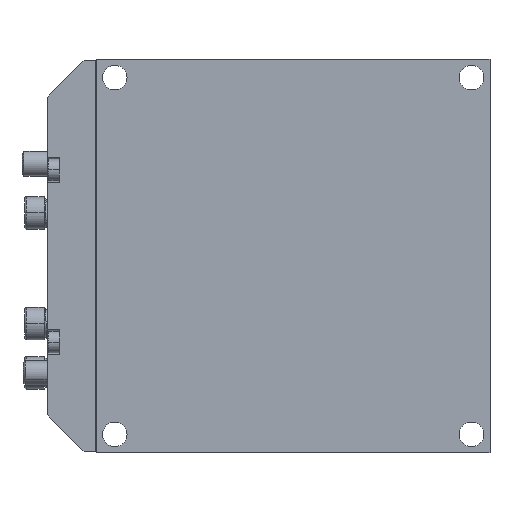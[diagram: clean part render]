
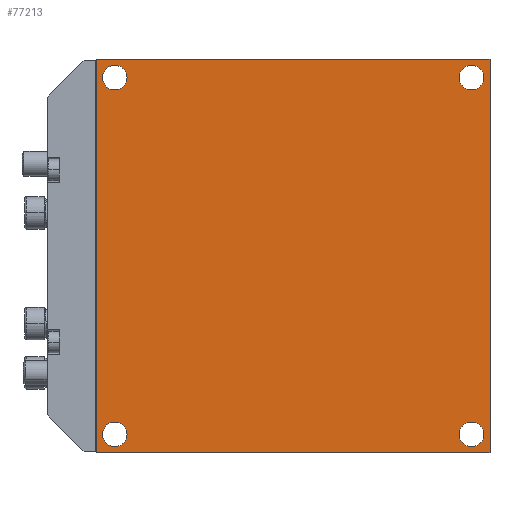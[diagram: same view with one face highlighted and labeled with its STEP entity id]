
A CAD part, left-side view. The second image highlights one B-rep face of the part: STEP entity #77213.
In plain terms, the highlighted planar face has unit normal (-1, 0, 0).
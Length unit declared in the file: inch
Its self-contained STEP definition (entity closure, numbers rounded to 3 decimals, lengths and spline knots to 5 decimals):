
#514 = AXIS2_PLACEMENT_3D ( 'NONE', #70113, #69773, #54237 ) ;
#1690 = DIRECTION ( 'NONE',  ( 0., 0., -1. ) ) ;
#3274 = EDGE_CURVE ( 'Defeatured_0_5+Defeatured_0_1+Defeatured_0_4+Defeatured_0_2', #8825, #17168, #45410, .T. ) ;
#4091 = CIRCLE ( 'NONE', #62902, 0.125 ) ;
#5484 = LINE ( 'NONE', #32435, #67352 ) ;
#6905 = CARTESIAN_POINT ( 'NONE',  ( -2., 3.8125, -1.6875 ) ) ;
#7299 = CARTESIAN_POINT ( 'NONE',  ( -2., 3.8125, 1.9375 ) ) ;
#7705 = DIRECTION ( 'NONE',  ( 1., 0., 0. ) ) ;
#8517 = ORIENTED_EDGE ( 'NONE', *, *, #59891, .F. ) ;
#8825 = VERTEX_POINT ( 'NONE', #32440 ) ;
#8975 = FACE_BOUND ( 'NONE', #40304, .T. ) ;
#10106 = ORIENTED_EDGE ( 'NONE', *, *, #93168, .T. ) ;
#12283 = VECTOR ( 'NONE', #29358, 39.37008 ) ;
#13404 = DIRECTION ( 'NONE',  ( 1., 0., 0. ) ) ;
#14840 = DIRECTION ( 'NONE',  ( 1., 0., 0. ) ) ;
#14937 = AXIS2_PLACEMENT_3D ( 'NONE', #18195, #25930, #34045 ) ;
#15735 = CARTESIAN_POINT ( 'NONE',  ( -2., 0.1875, 1.9375 ) ) ;
#16096 = ORIENTED_EDGE ( 'NONE', *, *, #37757, .T. ) ;
#17168 = VERTEX_POINT ( 'NONE', #50574 ) ;
#18195 = CARTESIAN_POINT ( 'NONE',  ( -2., 0.1875, 1.8125 ) ) ;
#20433 = VECTOR ( 'NONE', #1690, 39.37008 ) ;
#20533 = EDGE_LOOP ( 'NONE', ( #26215, #21526 ) ) ;
#21087 = VERTEX_POINT ( 'NONE', #15735 ) ;
#21526 = ORIENTED_EDGE ( 'NONE', *, *, #69437, .T. ) ;
#21597 = CARTESIAN_POINT ( 'NONE',  ( -2., 4., 2. ) ) ;
#25876 = CARTESIAN_POINT ( 'NONE',  ( -2., 4., 2. ) ) ;
#25930 = DIRECTION ( 'NONE',  ( 1., 0., 0. ) ) ;
#26215 = ORIENTED_EDGE ( 'NONE', *, *, #70056, .T. ) ;
#28846 = VERTEX_POINT ( 'NONE', #6905 ) ;
#28915 = DIRECTION ( 'NONE',  ( 0., 0., -1. ) ) ;
#29142 = AXIS2_PLACEMENT_3D ( 'NONE', #94195, #13404, #69146 ) ;
#29358 = DIRECTION ( 'NONE',  ( 0., -1., 0. ) ) ;
#31401 = CIRCLE ( 'NONE', #71798, 0.125 ) ;
#32360 = ORIENTED_EDGE ( 'NONE', *, *, #32797, .T. ) ;
#32435 = CARTESIAN_POINT ( 'NONE',  ( -2., 4., 2. ) ) ;
#32440 = CARTESIAN_POINT ( 'NONE',  ( -2., 4., 2. ) ) ;
#32797 = EDGE_CURVE ( 'Defeatured_0_1+Defeatured_0_204+Defeatured_0_204+Defeatured_0_204', #65763, #44235, #31401, .T. ) ;
#33287 = DIRECTION ( 'NONE',  ( 1., 0., 0. ) ) ;
#34045 = DIRECTION ( 'NONE',  ( 0., 0., -1. ) ) ;
#35181 = CARTESIAN_POINT ( 'NONE',  ( -2., 3.8125, 1.6875 ) ) ;
#36285 = DIRECTION ( 'NONE',  ( 0., 0., -1. ) ) ;
#36406 = CARTESIAN_POINT ( 'NONE',  ( -2., 4., -2. ) ) ;
#37757 = EDGE_CURVE ( 'Defeatured_0_1+Defeatured_0_0+Defeatured_0_4+Defeatured_0_2', #38389, #98212, #99591, .T. ) ;
#38031 = FACE_BOUND ( 'NONE', #71755, .T. ) ;
#38389 = VERTEX_POINT ( 'NONE', #80102 ) ;
#38627 = EDGE_LOOP ( 'NONE', ( #16096, #8517, #72740, #10106 ) ) ;
#39544 = CARTESIAN_POINT ( 'NONE',  ( -2., 0.1875, -1.8125 ) ) ;
#40304 = EDGE_LOOP ( 'NONE', ( #75350, #60613 ) ) ;
#41005 = EDGE_CURVE ( 'Defeatured_0_1+Defeatured_0_202+Defeatured_0_202+Defeatured_0_202', #46650, #66990, #96933, .T. ) ;
#42411 = EDGE_CURVE ( 'Defeatured_0_1+Defeatured_0_205+Defeatured_0_205+Defeatured_0_205', #28846, #60722, #84273, .T. ) ;
#44235 = VERTEX_POINT ( 'NONE', #7299 ) ;
#45410 = LINE ( 'NONE', #21597, #12283 ) ;
#46494 = CARTESIAN_POINT ( 'NONE',  ( -2., 3.8125, -1.8125 ) ) ;
#46650 = VERTEX_POINT ( 'NONE', #51010 ) ;
#47643 = DIRECTION ( 'NONE',  ( 0., 0., -1. ) ) ;
#48959 = CARTESIAN_POINT ( 'NONE',  ( -2., 3.8125, -1.9375 ) ) ;
#49637 = CIRCLE ( 'NONE', #85193, 0.125 ) ;
#50081 = ORIENTED_EDGE ( 'NONE', *, *, #58707, .T. ) ;
#50574 = CARTESIAN_POINT ( 'NONE',  ( -2., 0., 2. ) ) ;
#51010 = CARTESIAN_POINT ( 'NONE',  ( -2., 0.1875, -1.6875 ) ) ;
#51222 = AXIS2_PLACEMENT_3D ( 'NONE', #68734, #51824, #36285 ) ;
#51824 = DIRECTION ( 'NONE',  ( 1., 0., 0. ) ) ;
#51918 = FACE_OUTER_BOUND ( 'NONE', #38627, .T. ) ;
#53227 = CIRCLE ( 'NONE', #14937, 0.125 ) ;
#54237 = DIRECTION ( 'NONE',  ( 0., 0., -1. ) ) ;
#58707 = EDGE_CURVE ( 'Defeatured_0_1+Defeatured_0_204+Defeatured_0_204+Defeatured_0_204', #44235, #65763, #69697, .T. ) ;
#59891 = EDGE_CURVE ( 'Defeatured_0_2+Defeatured_0_1+Defeatured_0_5+Defeatured_0_0', #17168, #98212, #93616, .T. ) ;
#60613 = ORIENTED_EDGE ( 'NONE', *, *, #42411, .T. ) ;
#60722 = VERTEX_POINT ( 'NONE', #48959 ) ;
#61917 = CARTESIAN_POINT ( 'NONE',  ( -2., 0.1875, -1.9375 ) ) ;
#62902 = AXIS2_PLACEMENT_3D ( 'NONE', #46494, #103690, #102644 ) ;
#65395 = VECTOR ( 'NONE', #79402, 39.37008 ) ;
#65763 = VERTEX_POINT ( 'NONE', #35181 ) ;
#66990 = VERTEX_POINT ( 'NONE', #61917 ) ;
#67352 = VECTOR ( 'NONE', #89959, 39.37008 ) ;
#68734 = CARTESIAN_POINT ( 'NONE',  ( -2., 0.1875, -1.8125 ) ) ;
#69146 = DIRECTION ( 'NONE',  ( 0., 0., -1. ) ) ;
#69437 = EDGE_CURVE ( 'Defeatured_0_1+Defeatured_0_203+Defeatured_0_203+Defeatured_0_203', #21087, #99391, #53227, .T. ) ;
#69697 = CIRCLE ( 'NONE', #75644, 0.125 ) ;
#69773 = DIRECTION ( 'NONE',  ( 1., 0., 0. ) ) ;
#70056 = EDGE_CURVE ( 'Defeatured_0_1+Defeatured_0_203+Defeatured_0_203+Defeatured_0_203', #99391, #21087, #89888, .T. ) ;
#70113 = CARTESIAN_POINT ( 'NONE',  ( -2., 3.8125, -1.8125 ) ) ;
#71583 = AXIS2_PLACEMENT_3D ( 'NONE', #25876, #33287, #89744 ) ;
#71755 = EDGE_LOOP ( 'NONE', ( #32360, #50081 ) ) ;
#71798 = AXIS2_PLACEMENT_3D ( 'NONE', #84694, #77267, #28915 ) ;
#72740 = ORIENTED_EDGE ( 'NONE', *, *, #3274, .F. ) ;
#73362 = FACE_BOUND ( 'NONE', #102339, .T. ) ;
#73866 = PLANE ( 'NONE',  #71583 ) ;
#74001 = CARTESIAN_POINT ( 'NONE',  ( -2., 0., 2. ) ) ;
#75350 = ORIENTED_EDGE ( 'NONE', *, *, #100707, .T. ) ;
#75644 = AXIS2_PLACEMENT_3D ( 'NONE', #104742, #7705, #88489 ) ;
#76188 = CARTESIAN_POINT ( 'NONE',  ( -2., 0., -2. ) ) ;
#77213 = ADVANCED_FACE ( 'Defeatured_0_1', ( #8975, #38031, #94844, #73362, #51918 ), #73866, .F. ) ;
#77267 = DIRECTION ( 'NONE',  ( 1., 0., 0. ) ) ;
#79402 = DIRECTION ( 'NONE',  ( 0., -1., 0. ) ) ;
#80102 = CARTESIAN_POINT ( 'NONE',  ( -2., 4., -2. ) ) ;
#84273 = CIRCLE ( 'NONE', #514, 0.125 ) ;
#84694 = CARTESIAN_POINT ( 'NONE',  ( -2., 3.8125, 1.8125 ) ) ;
#85193 = AXIS2_PLACEMENT_3D ( 'NONE', #39544, #14840, #47643 ) ;
#85341 = CARTESIAN_POINT ( 'NONE',  ( -2., 0.1875, 1.6875 ) ) ;
#88489 = DIRECTION ( 'NONE',  ( 0., 0., -1. ) ) ;
#89744 = DIRECTION ( 'NONE',  ( 0., 1., 0. ) ) ;
#89888 = CIRCLE ( 'NONE', #29142, 0.125 ) ;
#89959 = DIRECTION ( 'NONE',  ( 0., 0., -1. ) ) ;
#91230 = EDGE_CURVE ( 'Defeatured_0_1+Defeatured_0_202+Defeatured_0_202+Defeatured_0_202', #66990, #46650, #49637, .T. ) ;
#93168 = EDGE_CURVE ( 'Defeatured_0_1+Defeatured_0_4+Defeatured_0_5+Defeatured_0_0', #8825, #38389, #5484, .T. ) ;
#93616 = LINE ( 'NONE', #74001, #20433 ) ;
#94195 = CARTESIAN_POINT ( 'NONE',  ( -2., 0.1875, 1.8125 ) ) ;
#94844 = FACE_BOUND ( 'NONE', #20533, .T. ) ;
#96157 = ORIENTED_EDGE ( 'NONE', *, *, #91230, .T. ) ;
#96933 = CIRCLE ( 'NONE', #51222, 0.125 ) ;
#98212 = VERTEX_POINT ( 'NONE', #76188 ) ;
#99391 = VERTEX_POINT ( 'NONE', #85341 ) ;
#99591 = LINE ( 'NONE', #36406, #65395 ) ;
#100707 = EDGE_CURVE ( 'Defeatured_0_1+Defeatured_0_205+Defeatured_0_205+Defeatured_0_205', #60722, #28846, #4091, .T. ) ;
#102339 = EDGE_LOOP ( 'NONE', ( #96157, #102448 ) ) ;
#102448 = ORIENTED_EDGE ( 'NONE', *, *, #41005, .T. ) ;
#102644 = DIRECTION ( 'NONE',  ( 0., 0., -1. ) ) ;
#103690 = DIRECTION ( 'NONE',  ( 1., 0., 0. ) ) ;
#104742 = CARTESIAN_POINT ( 'NONE',  ( -2., 3.8125, 1.8125 ) ) ;
